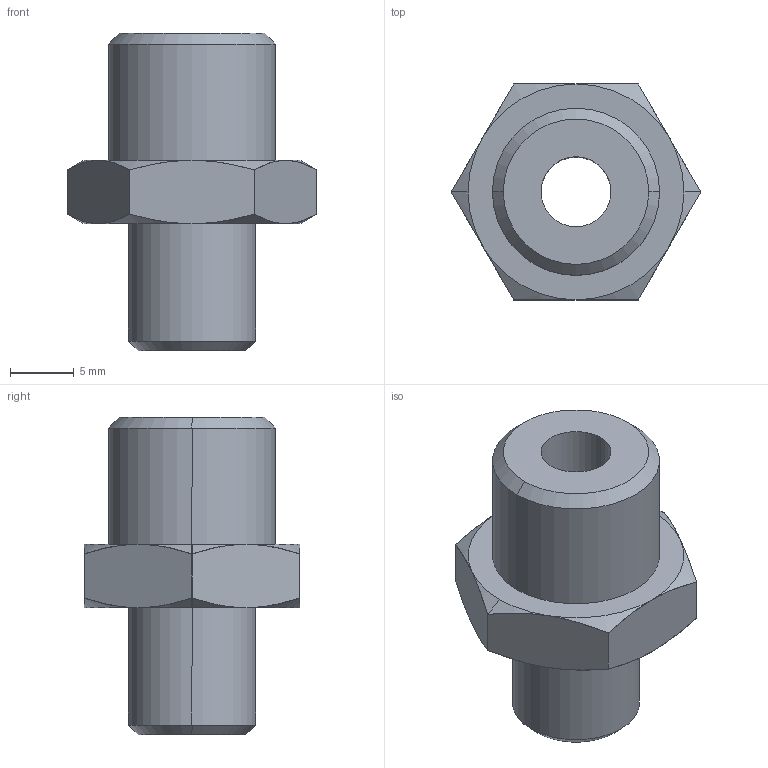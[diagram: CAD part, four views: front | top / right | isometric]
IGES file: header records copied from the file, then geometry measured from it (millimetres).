
Start section: 3D InterOp IGES (v. 2018 1.0.2), Spatial Corp. Copyright (c) 1999-2017.
Global section: file name: schmalz_10_01_01_10097_dv4s2xvehcfcheyskjr3hhxnf.igs; native system: Spatial Corp.; preprocessor: 3D InterOp ACIS/IGES; author: TraceParts; organization: TraceParts S.A.; date: 20181128.070807; units: millimetre
Bounding box: 19.63 x 17 x 25 mm (x, y, z)
Surface area: 1846.9 mm2 (no closed solid volume)
Topology: 0 solids, 0 shells, 36 faces, 152 edges, 152 vertices
Faces by surface type: revolution 26, extrusion 10
